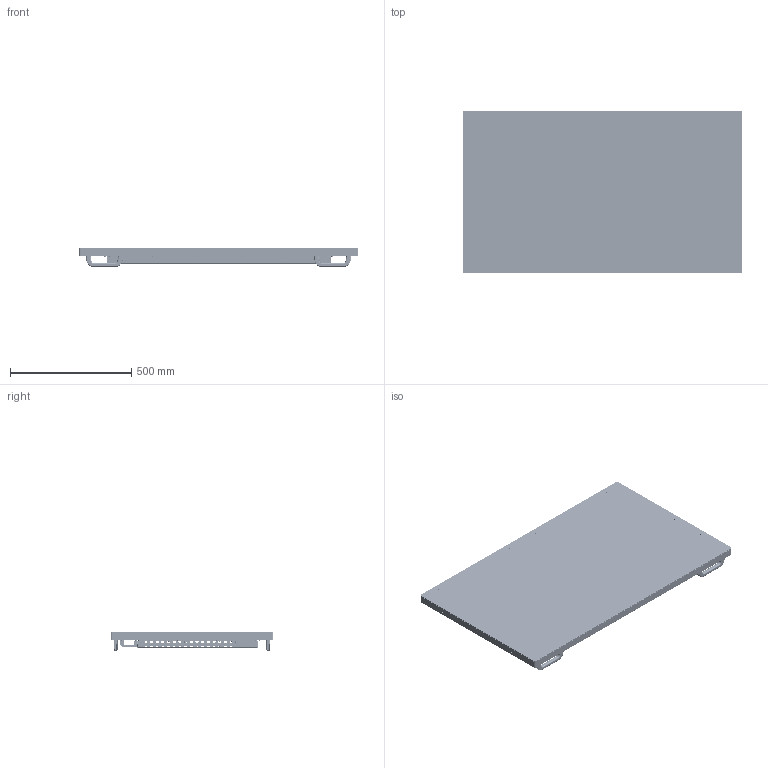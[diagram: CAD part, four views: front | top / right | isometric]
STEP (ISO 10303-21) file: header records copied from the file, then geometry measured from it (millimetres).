
FILE_DESCRIPTION(/* description */ (''),/* implementation_level */ '2;1');
FILE_NAME(/* name */ '39_series_50u_3d_202524 new.stp',/* time_stamp */ '2024-05-24T11:06:32+08:00',/* author */ (''),/* organization */ (''),/* preprocessor_version */ 'ST-DEVELOPER v14',/* originating_system */ 'SIEMENS PLM Software NX 8.0',/* authorisation */ '');
FILE_SCHEMA (('AUTOMOTIVE_DESIGN { 1 0 10303 214 3 1 1 1 }'));
Products named in the file (1): 40730324020Crtt7
Bounding box: 1368.19 x 670 x 617.42 mm (x, y, z)
Volume: 4921264.5 mm3; surface area: 6766999.6 mm2
Topology: 197 solids, 220 shells, 28020 faces, 79383 edges, 51752 vertices
Faces by surface type: plane 14403, cylinder 10358, bspline 1386, cone 1061, torus 683, extrusion 99, sphere 30
Full cylindrical faces by diameter (mm): 2.5 x77, 2.6 x11, 2.7 x11, 2.8 x1316, 3 x1, 3.2 x1, 3.5 x18, 3.6 x4, 3.7 x2, 4 x26, 4.2 x34, 4.3 x8, 4.5 x4, 4.7 x2, 5 x8, 5.5 x11, 6 x1, 7.5 x1, 8.5 x16, 9 x12, 10 x3, 12 x16, 14.5 x1, 28 x4
Entity records: 1227230 total; most frequent: CARTESIAN_POINT 499328, ORIENTED_EDGE 152898, DIRECTION 140096, EDGE_CURVE 76454, VERTEX_POINT 50734, VECTOR 47256, LINE 47157, AXIS2_PLACEMENT_3D 46420
